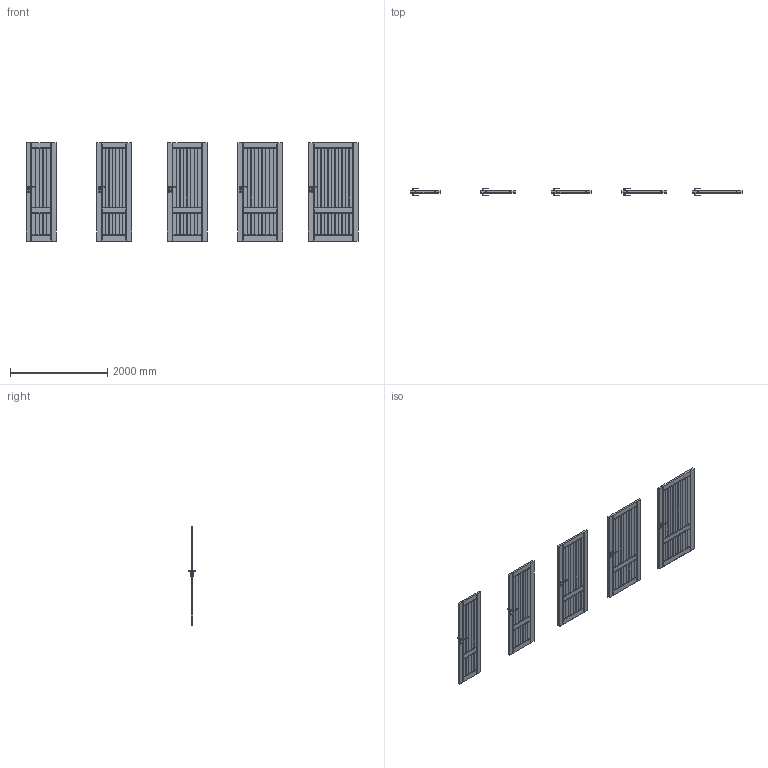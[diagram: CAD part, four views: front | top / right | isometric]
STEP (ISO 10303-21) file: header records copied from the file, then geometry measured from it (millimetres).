
FILE_DESCRIPTION(/* description */ (''),/* implementation_level */ '2;1');
FILE_NAME(/* name */ '049856_A_2-Skrzydło OSLO model 2_ polska norma _PN__ bezprzylgowe..stp',/* time_stamp */ '2024-09-03T14:05:22+02:00',/* author */ (''),/* organization */ (''),/* preprocessor_version */ 'ST-DEVELOPER v16',/* originating_system */ 'SIEMENS PLM Software NX 11.0',/* authorisation */ '');
FILE_SCHEMA (('AUTOMOTIVE_DESIGN { 1 0 10303 214 3 1 1 1 }'));
Products named in the file (1): bkni2A047F3F8b7o
Bounding box: 6818 x 153.13 x 2017 mm (x, y, z)
Volume: 323581268.7 mm3; surface area: 17976958.2 mm2
Topology: 25 solids, 25 shells, 4070 faces, 10650 edges, 6560 vertices
Faces by surface type: plane 1750, cylinder 1460, torus 280, cone 280, bspline 160, sphere 140
Entity records: 139656 total; most frequent: CARTESIAN_POINT 41808, ORIENTED_EDGE 21020, DIRECTION 19952, EDGE_CURVE 10510, AXIS2_PLACEMENT_3D 7231, VERTEX_POINT 6560, LINE 5490, VECTOR 5490
